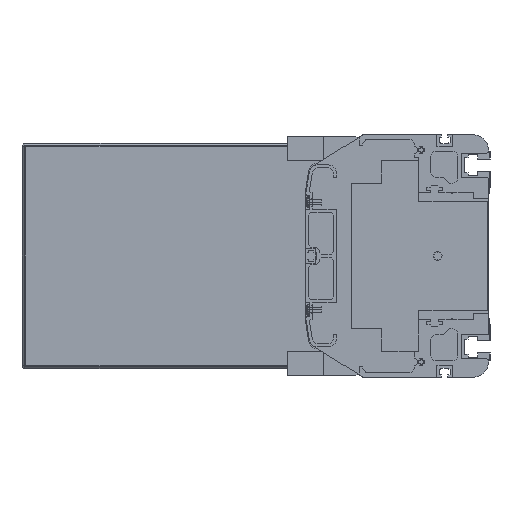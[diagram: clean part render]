
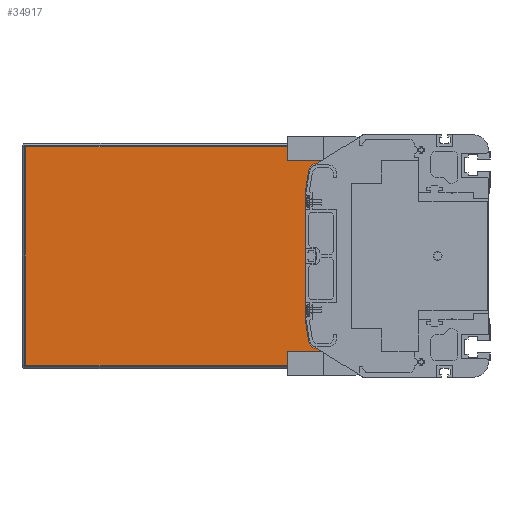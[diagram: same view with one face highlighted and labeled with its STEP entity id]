
A CAD part, left-side view. The second image highlights one B-rep face of the part: STEP entity #34917.
In plain terms, the highlighted planar face has unit normal (-1, 0, 0).
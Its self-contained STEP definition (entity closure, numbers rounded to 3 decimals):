
#3456=DIRECTION('',(0.,0.,-1.));
#3457=VECTOR('',#3456,11.);
#3458=CARTESIAN_POINT('',(3286.5,86.,-61.));
#3459=LINE('',#3458,#3457);
#3465=DIRECTION('',(0.,0.,-1.));
#3466=VECTOR('',#3465,11.);
#3467=CARTESIAN_POINT('',(3286.5,86.,72.));
#3468=LINE('',#3467,#3466);
#3478=DIRECTION('',(0.,-1.,0.));
#3479=VECTOR('',#3478,220.5);
#3480=CARTESIAN_POINT('',(3286.5,306.5,-72.));
#3481=LINE('',#3480,#3479);
#8304=DIRECTION('',(0.,1.,0.));
#8305=VECTOR('',#8304,28.728);
#8306=CARTESIAN_POINT('',(3286.5,86.,-61.));
#8307=LINE('',#8306,#8305);
#14493=DIRECTION('',(0.,-1.,0.));
#14494=VECTOR('',#14493,28.728);
#14495=CARTESIAN_POINT('',(3286.5,114.728,61.));
#14496=LINE('',#14495,#14494);
#14509=DIRECTION('',(0.,0.,1.));
#14510=VECTOR('',#14509,84.);
#14511=CARTESIAN_POINT('',(3286.5,122.,-42.));
#14512=LINE('',#14511,#14510);
#14521=CARTESIAN_POINT('',(3286.5,114.728,56.));
#14522=DIRECTION('',(-1.,0.,0.));
#14523=DIRECTION('',(0.,0.,1.));
#14524=AXIS2_PLACEMENT_3D('',#14521,#14522,#14523);
#14526=DIRECTION('',(0.,0.156,-0.988));
#14527=VECTOR('',#14526,14.963);
#14528=CARTESIAN_POINT('',(3286.5,119.666,56.78));
#14529=LINE('',#14528,#14527);
#14530=DIRECTION('',(0.,-0.156,-0.988));
#14531=VECTOR('',#14530,14.963);
#14532=CARTESIAN_POINT('',(3286.5,122.,-42.));
#14533=LINE('',#14532,#14531);
#14534=CARTESIAN_POINT('',(3286.5,114.728,-56.));
#14535=DIRECTION('',(-1.,0.,0.));
#14536=DIRECTION('',(0.,0.988,-0.156));
#14537=AXIS2_PLACEMENT_3D('',#14534,#14535,#14536);
#14543=DIRECTION('',(0.,0.,-1.));
#14544=VECTOR('',#14543,144.);
#14545=CARTESIAN_POINT('',(3286.5,306.5,72.));
#14546=LINE('',#14545,#14544);
#14712=DIRECTION('',(0.,1.,0.));
#14713=VECTOR('',#14712,220.5);
#14714=CARTESIAN_POINT('',(3286.5,86.,72.));
#14715=LINE('',#14714,#14713);
#17012=CARTESIAN_POINT('',(3286.5,306.5,-72.));
#17013=CARTESIAN_POINT('',(3286.5,86.,-72.));
#17014=VERTEX_POINT('',#17012);
#17015=VERTEX_POINT('',#17013);
#17016=CARTESIAN_POINT('',(3286.5,86.,-61.));
#17017=VERTEX_POINT('',#17016);
#17018=CARTESIAN_POINT('',(3286.5,114.728,-61.));
#17019=VERTEX_POINT('',#17018);
#17020=CARTESIAN_POINT('',(3286.5,119.666,-56.78));
#17021=VERTEX_POINT('',#17020);
#17022=CARTESIAN_POINT('',(3286.5,122.,-42.));
#17023=VERTEX_POINT('',#17022);
#17024=CARTESIAN_POINT('',(3286.5,122.,42.));
#17025=VERTEX_POINT('',#17024);
#17026=CARTESIAN_POINT('',(3286.5,119.666,56.78));
#17027=VERTEX_POINT('',#17026);
#17028=CARTESIAN_POINT('',(3286.5,114.728,61.));
#17029=VERTEX_POINT('',#17028);
#17030=CARTESIAN_POINT('',(3286.5,86.,61.));
#17031=VERTEX_POINT('',#17030);
#17032=CARTESIAN_POINT('',(3286.5,86.,72.));
#17033=VERTEX_POINT('',#17032);
#17034=CARTESIAN_POINT('',(3286.5,306.5,72.));
#17035=VERTEX_POINT('',#17034);
#34894=CARTESIAN_POINT('',(3286.5,196.25,0.));
#34895=DIRECTION('',(1.,0.,0.));
#34896=DIRECTION('',(0.,0.,-1.));
#34897=AXIS2_PLACEMENT_3D('',#34894,#34895,#34896);
#34898=PLANE('',#34897);
#34899=ORIENTED_EDGE('',*,*,#22250,.F.);
#34901=ORIENTED_EDGE('',*,*,#34900,.F.);
#34903=ORIENTED_EDGE('',*,*,#34902,.F.);
#34904=ORIENTED_EDGE('',*,*,#22232,.T.);
#34905=ORIENTED_EDGE('',*,*,#34846,.F.);
#34906=ORIENTED_EDGE('',*,*,#34859,.T.);
#34907=ORIENTED_EDGE('',*,*,#34875,.T.);
#34908=ORIENTED_EDGE('',*,*,#34885,.F.);
#34910=ORIENTED_EDGE('',*,*,#34909,.T.);
#34912=ORIENTED_EDGE('',*,*,#34911,.T.);
#34913=ORIENTED_EDGE('',*,*,#26465,.F.);
#34914=ORIENTED_EDGE('',*,*,#22200,.T.);
#34915=EDGE_LOOP('',(#34899,#34901,#34903,#34904,#34905,#34906,#34907,#34908,
#34910,#34912,#34913,#34914));
#34916=FACE_OUTER_BOUND('',#34915,.F.);
#34917=ADVANCED_FACE('',(#34916),#34898,.F.);
#14525=CIRCLE('',#14524,5.);
#14538=CIRCLE('',#14537,5.);
#22200=EDGE_CURVE('',#17017,#17015,#3459,.T.);
#22232=EDGE_CURVE('',#17033,#17031,#3468,.T.);
#22250=EDGE_CURVE('',#17014,#17015,#3481,.T.);
#26465=EDGE_CURVE('',#17017,#17019,#8307,.T.);
#34846=EDGE_CURVE('',#17029,#17031,#14496,.T.);
#34859=EDGE_CURVE('',#17029,#17027,#14525,.T.);
#34875=EDGE_CURVE('',#17027,#17025,#14529,.T.);
#34885=EDGE_CURVE('',#17023,#17025,#14512,.T.);
#34900=EDGE_CURVE('',#17035,#17014,#14546,.T.);
#34902=EDGE_CURVE('',#17033,#17035,#14715,.T.);
#34909=EDGE_CURVE('',#17023,#17021,#14533,.T.);
#34911=EDGE_CURVE('',#17021,#17019,#14538,.T.);
